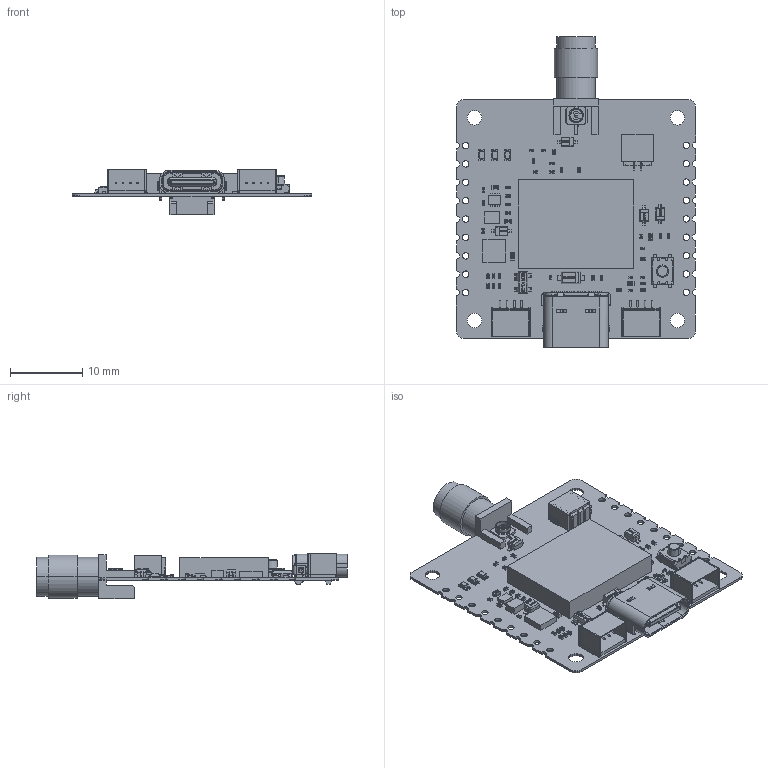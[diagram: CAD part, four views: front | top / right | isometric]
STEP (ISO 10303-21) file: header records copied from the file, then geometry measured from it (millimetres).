
FILE_DESCRIPTION(('Open CASCADE Model'),'2;1');
FILE_NAME('Open CASCADE Shape Model','2025-10-21T18:11:59',('Author'),( 'Open CASCADE'),'Open CASCADE STEP processor 6.5','Open CASCADE 6.5' ,'Unknown');
FILE_SCHEMA(('AUTOMOTIVE_DESIGN { 1 0 10303 214 1 1 1 1 }'));
Length unit declared in the file: millimetre
Products named in the file (136): PCB; Board; R33; User_Library-RES_0603-0201; R9; C12; User_Library-0201(0603M)_Cap; R2; C11; C9; R25; R23; C10; C6; R10; R7; R32; R8; Key1; ts-1185ec-a-e-a-1; U3; 1748830512; Extruded; U2; 1748831024; U1; 1675878832; 1675878704; R31; R19; R16; R15; R14; R6; R5; R4; R3; R1; LED3; User_Library-LED_0603_R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
Assembly tree (209 placements, depth 6):
  PCB
    Board
    R33
      User_Library-RES_0603-0201
    R9
      User_Library-RES_0603-0201
    C12
      User_Library-0201(0603M)_Cap
    R2
      User_Library-RES_0603-0201
    C11
      User_Library-0201(0603M)_Cap
    C9
      User_Library-0201(0603M)_Cap
    R25
      User_Library-RES_0603-0201
    R23
      User_Library-RES_0603-0201
    C10
      User_Library-0201(0603M)_Cap
    C6
      User_Library-0201(0603M)_Cap
    R10
      User_Library-RES_0603-0201
    R7
      User_Library-RES_0603-0201
    R32
      User_Library-RES_0603-0201
    R8
      User_Library-RES_0603-0201
    Key1
      ts-1185ec-a-e-a-1
    U3
      1748830512
        Extruded
    U2
      1748831024
        Extruded
    U1
      1675878832  x6
        Extruded
      1675878704
        Extruded
    R31
      User_Library-RES_0603-0201
    R19
      User_Library-RES_0603-0201
    R16
      User_Library-RES_0603-0201
    R15
      User_Library-RES_0603-0201
    R14
      User_Library-RES_0603-0201
    R6
      User_Library-RES_0603-0201
    R5
      User_Library-RES_0603-0201
    R4
      User_Library-RES_0603-0201
    R3
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Bounding box: 33.04 x 42.96 x 6.3 mm (x, y, z)
Volume: 1398.9 mm3; surface area: 4704.8 mm2
Topology: 231 solids, 247 shells, 11403 faces, 30241 edges, 19867 vertices
Faces by surface type: plane 8059, cylinder 1312, extrusion 961, bspline 893, sphere 128, cone 44, torus 4, revolution 2
Full cylindrical faces by diameter (mm): 0.2 x24, 0.762 x2, 0.9 x18
Entity records: 371409 total; most frequent: CARTESIAN_POINT 133522, DIRECTION 37103, VECTOR 25708, LINE 25491, ORIENTED_EDGE 24162, PCURVE 24162, DEFINITIONAL_REPRESENTATION 24162, EDGE_CURVE 12084
